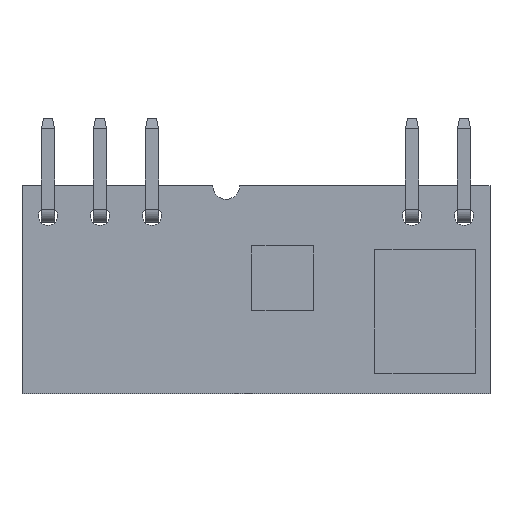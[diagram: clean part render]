
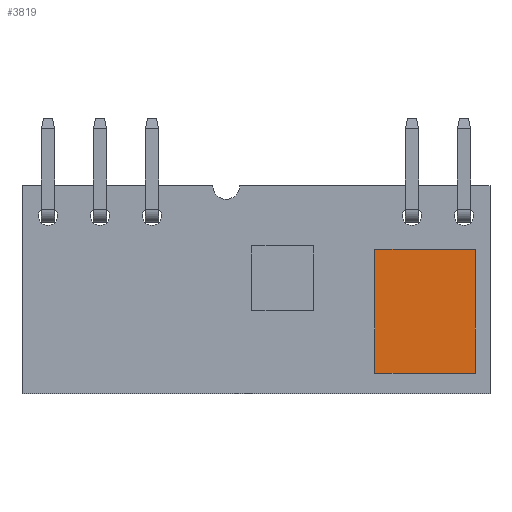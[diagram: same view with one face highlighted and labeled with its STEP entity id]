
A CAD part, front view. The second image highlights one B-rep face of the part: STEP entity #3819.
In plain terms, the highlighted planar face has unit normal (0, -1, 0).
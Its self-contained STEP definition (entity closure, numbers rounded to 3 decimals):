
#455 = VECTOR ( 'NONE', #5546, 1000. ) ;
#595 = EDGE_CURVE ( 'NONE', #5844, #4947, #4377, .T. ) ;
#744 = CARTESIAN_POINT ( 'NONE',  ( 10.71, -1.2, 1.97 ) ) ;
#1080 = EDGE_CURVE ( 'NONE', #4947, #3235, #4630, .T. ) ;
#1162 = CARTESIAN_POINT ( 'NONE',  ( 5.81, -1.2, -4.08 ) ) ;
#1176 = ORIENTED_EDGE ( 'NONE', *, *, #1080, .T. ) ;
#1321 = CARTESIAN_POINT ( 'NONE',  ( 5.81, -1.2, -4.08 ) ) ;
#1452 = EDGE_CURVE ( 'NONE', #3009, #5844, #3034, .T. ) ;
#1738 = DIRECTION ( 'NONE',  ( -1., 0., 0. ) ) ;
#1795 = DIRECTION ( 'NONE',  ( 0., 0., -1. ) ) ;
#1850 = VECTOR ( 'NONE', #5806, 1000. ) ;
#1956 = EDGE_LOOP ( 'NONE', ( #3435, #3971, #4245, #1176 ) ) ;
#2175 = CARTESIAN_POINT ( 'NONE',  ( 5.81, -1.2, -4.08 ) ) ;
#2217 = VECTOR ( 'NONE', #1738, 1000. ) ;
#2366 = CARTESIAN_POINT ( 'NONE',  ( 5.81, -1.2, 1.97 ) ) ;
#2489 = AXIS2_PLACEMENT_3D ( 'NONE', #1321, #4496, #1795 ) ;
#3009 = VERTEX_POINT ( 'NONE', #1162 ) ;
#3034 = LINE ( 'NONE', #2175, #1850 ) ;
#3235 = VERTEX_POINT ( 'NONE', #5856 ) ;
#3397 = CARTESIAN_POINT ( 'NONE',  ( 10.71, -1.2, 1.97 ) ) ;
#3435 = ORIENTED_EDGE ( 'NONE', *, *, #4172, .T. ) ;
#3547 = CARTESIAN_POINT ( 'NONE',  ( 10.71, -1.2, -4.08 ) ) ;
#3819 = ADVANCED_FACE ( 'NONE', ( #4340 ), #4006, .T. ) ;
#3915 = LINE ( 'NONE', #2366, #455 ) ;
#3971 = ORIENTED_EDGE ( 'NONE', *, *, #1452, .T. ) ;
#4006 = PLANE ( 'NONE',  #2489 ) ;
#4172 = EDGE_CURVE ( 'NONE', #3235, #3009, #3915, .T. ) ;
#4243 = VECTOR ( 'NONE', #5230, 1000. ) ;
#4245 = ORIENTED_EDGE ( 'NONE', *, *, #595, .T. ) ;
#4340 = FACE_OUTER_BOUND ( 'NONE', #1956, .T. ) ;
#4377 = LINE ( 'NONE', #3397, #4243 ) ;
#4430 = CARTESIAN_POINT ( 'NONE',  ( 5.81, -1.2, 1.97 ) ) ;
#4496 = DIRECTION ( 'NONE',  ( 0., -1., 0. ) ) ;
#4630 = LINE ( 'NONE', #4430, #2217 ) ;
#4947 = VERTEX_POINT ( 'NONE', #744 ) ;
#5230 = DIRECTION ( 'NONE',  ( 0., 0., 1. ) ) ;
#5546 = DIRECTION ( 'NONE',  ( 0., 0., -1. ) ) ;
#5806 = DIRECTION ( 'NONE',  ( 1., 0., 0. ) ) ;
#5844 = VERTEX_POINT ( 'NONE', #3547 ) ;
#5856 = CARTESIAN_POINT ( 'NONE',  ( 5.81, -1.2, 1.97 ) ) ;
